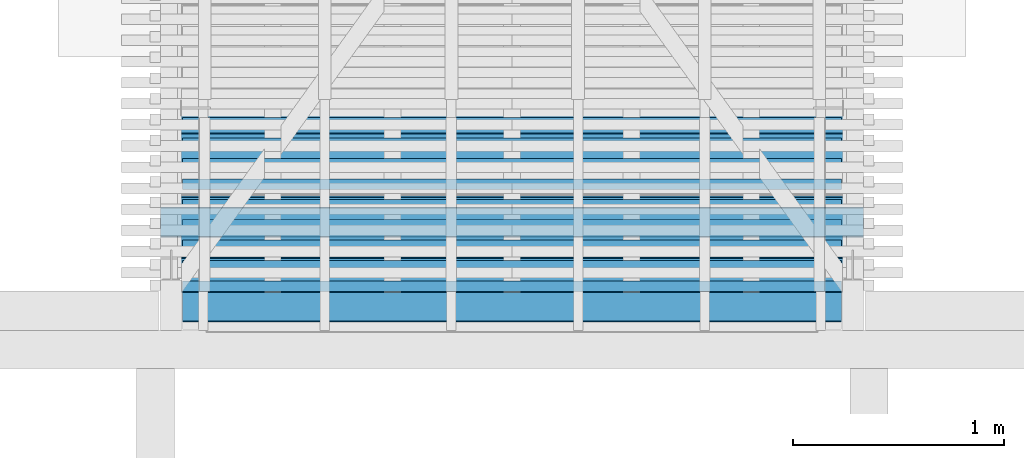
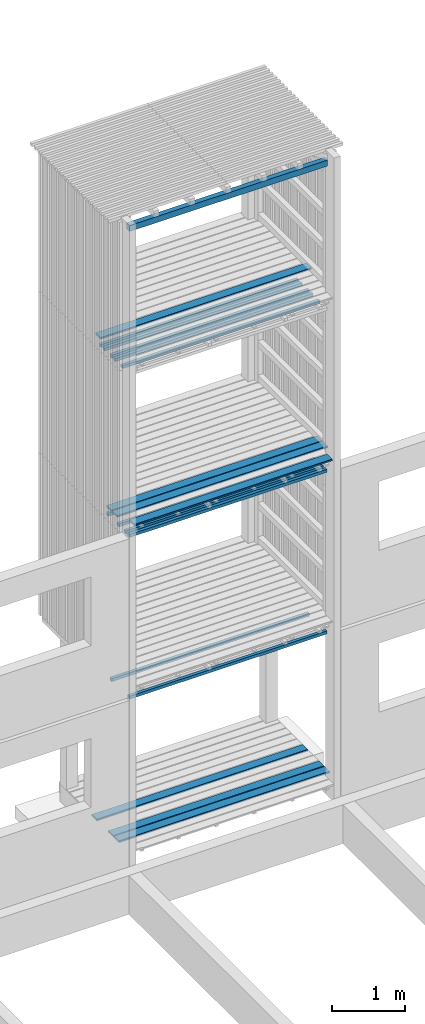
# One storey, part 17 of 182: 19 beams.
"""IFC2X3 building model written with IfcOpenShell, lengths in metres."""

from ifc_helpers import new_model, si_unit, frame, origin, place, context, project, spatial, faceted_brep, element, save


model = new_model("IFC2X3")

# Units and contexts
model_context = context("Model", 3, precision=1e-06, world=origin())
ifc_project = project(units=[si_unit("LENGTHUNIT", "METRE"), si_unit("PLANEANGLEUNIT", "RADIAN")], contexts=[model_context])

# Site, building, storey
site = spatial("IfcSite", under=ifc_project, CompositionType="ELEMENT")
building = spatial("IfcBuilding", under=site, CompositionType="ELEMENT")
storey = spatial("IfcBuildingStorey", under=building, Name="vs", CompositionType="ELEMENT", Elevation=-0.85)

# Beams
placement = place(None, origin())
beam_1_placement = place(placement, frame((6.644197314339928, 11.334577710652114, 8.13349999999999), z_axis=(0.0, 0.0, 1.0), x_axis=(-1.0, 0.0, 0.0)))
element("IfcBeam", 1, at=beam_1_placement, inside=storey, Name="Caillebotis", context=model_context, shape_type="Brep", body=[
    faceted_brep([(3.329999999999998, -0.072499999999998, -0.013500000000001), (3.329999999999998, 0.072500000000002, -0.013500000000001), (3.329999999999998, 0.072500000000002, 0.008499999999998), (3.329999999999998, 0.067500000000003, 0.013499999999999), (3.329999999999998, -0.067500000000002, 0.013499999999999), (3.329999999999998, -0.072499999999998, 0.0085), (0.0, -0.072499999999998, 0.0085), (0.0, -0.067500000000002, 0.013499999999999), (0.0, 0.067500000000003, 0.013499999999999), (0.0, 0.072499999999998, 0.008499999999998), (0.0, 0.072499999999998, -0.013500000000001), (0.0, -0.072499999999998, -0.013500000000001), (3.329999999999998, 0.072500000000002, 0.008499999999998), (3.329999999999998, 0.072500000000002, -0.013500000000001), (0.0, 0.072499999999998, -0.013500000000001), (0.0, 0.072499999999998, 0.008499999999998), (3.329999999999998, 0.067500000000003, 0.013499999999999), (3.329999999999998, 0.072500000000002, 0.008499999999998), (0.0, 0.072499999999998, 0.008499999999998), (0.0, 0.067500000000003, 0.013499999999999), (3.329999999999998, -0.067500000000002, 0.013499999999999), (3.329999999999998, 0.067500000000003, 0.013499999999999), (0.0, 0.067500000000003, 0.013499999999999), (0.0, -0.067500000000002, 0.013499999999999), (3.329999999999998, -0.072499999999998, 0.0085), (3.329999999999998, -0.067500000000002, 0.013499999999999), (0.0, -0.067500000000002, 0.013499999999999), (0.0, -0.072499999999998, 0.0085), (3.329999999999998, -0.072499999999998, -0.013500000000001), (3.329999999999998, -0.072499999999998, 0.0085), (0.0, -0.072499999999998, 0.0085), (0.0, -0.072499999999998, -0.013500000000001), (0.0, 0.072499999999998, -0.013500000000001), (3.329999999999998, 0.072500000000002, -0.013500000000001), (3.329999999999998, -0.072499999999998, -0.013500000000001), (0.0, -0.072499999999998, -0.013500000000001)], [[[0, 1, 2, 3, 4, 5]], [[6, 7, 8, 9, 10, 11]], [[12, 13, 14, 15]], [[16, 17, 18, 19]], [[20, 21, 22, 23]], [[24, 25, 26, 27]], [[28, 29, 30, 31]], [[32, 33, 34, 35]]]),
])
beam_2_placement = place(placement, frame((6.644197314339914, 10.834577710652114, 0.033500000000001), z_axis=(0.0, 0.0, 1.0), x_axis=(-1.0, 0.0, 0.0)))
element("IfcBeam", 2, at=beam_2_placement, inside=storey, Name="Caillebotis", context=model_context, shape_type="Brep", body=[
    faceted_brep([(3.329999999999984, -0.067500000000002, 0.0135), (3.329999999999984, -0.072499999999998, 0.008500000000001), (3.329999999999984, -0.072499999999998, -0.013500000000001), (3.329999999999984, 0.072499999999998, -0.013500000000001), (3.329999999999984, 0.072499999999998, 0.0085), (3.329999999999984, 0.067499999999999, 0.0135), (0.0, 0.067499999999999, 0.0135), (0.0, 0.072499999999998, 0.0085), (0.0, 0.072499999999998, -0.013500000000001), (0.0, -0.072500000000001, -0.013500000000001), (0.0, -0.072500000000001, 0.008500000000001), (0.0, -0.067500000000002, 0.0135), (3.329999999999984, -0.072499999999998, -0.013500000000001), (3.329999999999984, -0.072499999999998, 0.008500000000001), (0.0, -0.072500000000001, 0.008500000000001), (0.0, -0.072500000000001, -0.013500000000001), (3.329999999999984, 0.072499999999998, -0.013500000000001), (3.329999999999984, -0.072499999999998, -0.013500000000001), (0.0, -0.072500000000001, -0.013500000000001), (0.0, 0.072499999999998, -0.013500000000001), (3.329999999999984, 0.072499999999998, 0.0085), (3.329999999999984, 0.072499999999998, -0.013500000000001), (0.0, 0.072499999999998, -0.013500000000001), (0.0, 0.072499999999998, 0.0085), (3.329999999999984, 0.067499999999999, 0.0135), (3.329999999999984, 0.072499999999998, 0.0085), (0.0, 0.072499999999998, 0.0085), (0.0, 0.067499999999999, 0.0135), (3.329999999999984, -0.067500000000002, 0.0135), (3.329999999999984, 0.067499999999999, 0.0135), (0.0, 0.067499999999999, 0.0135), (0.0, -0.067500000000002, 0.0135), (0.0, -0.072500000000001, 0.008500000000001), (3.329999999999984, -0.072499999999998, 0.008500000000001), (3.329999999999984, -0.067500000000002, 0.0135), (0.0, -0.067500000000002, 0.0135)], [[[0, 1, 2, 3, 4, 5]], [[6, 7, 8, 9, 10, 11]], [[12, 13, 14, 15]], [[16, 17, 18, 19]], [[20, 21, 22, 23]], [[24, 25, 26, 27]], [[28, 29, 30, 31]], [[32, 33, 34, 35]]]),
])
beam_3_placement = place(placement, frame((6.644197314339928, 11.034577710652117, 5.433499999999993), z_axis=(0.0, 0.0, 1.0), x_axis=(-1.0, -1e-15, 0.0)))
element("IfcBeam", 3, at=beam_3_placement, inside=storey, Name="Caillebotis", context=model_context, shape_type="Brep", body=[
    faceted_brep([(3.329999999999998, -0.072500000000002, -0.0135), (3.329999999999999, 0.072500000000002, -0.0135), (3.329999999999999, 0.072500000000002, 0.0085), (3.329999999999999, 0.067499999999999, 0.0135), (3.329999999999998, -0.067499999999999, 0.0135), (3.329999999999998, -0.072500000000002, 0.008500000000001), (0.0, -0.072499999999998, 0.008500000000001), (0.0, -0.067499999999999, 0.0135), (0.0, 0.067500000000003, 0.0135), (0.0, 0.072500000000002, 0.0085), (0.0, 0.072500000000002, -0.0135), (0.0, -0.072499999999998, -0.0135), (3.329999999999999, 0.072500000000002, 0.0085), (3.329999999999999, 0.072500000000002, -0.0135), (0.0, 0.072500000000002, -0.0135), (0.0, 0.072500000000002, 0.0085), (3.329999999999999, 0.067499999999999, 0.0135), (3.329999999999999, 0.072500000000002, 0.0085), (0.0, 0.072500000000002, 0.0085), (0.0, 0.067500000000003, 0.0135), (3.329999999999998, -0.067499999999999, 0.0135), (3.329999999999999, 0.067499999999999, 0.0135), (0.0, 0.067500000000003, 0.0135), (0.0, -0.067499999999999, 0.0135), (3.329999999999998, -0.072500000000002, 0.008500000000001), (3.329999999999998, -0.067499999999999, 0.0135), (0.0, -0.067499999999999, 0.0135), (0.0, -0.072499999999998, 0.008500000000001), (3.329999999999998, -0.072500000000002, -0.0135), (3.329999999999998, -0.072500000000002, 0.008500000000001), (0.0, -0.072499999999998, 0.008500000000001), (0.0, -0.072499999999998, -0.0135), (0.0, 0.072500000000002, -0.0135), (3.329999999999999, 0.072500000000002, -0.0135), (3.329999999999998, -0.072500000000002, -0.0135), (0.0, -0.072499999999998, -0.0135)], [[[0, 1, 2, 3, 4, 5]], [[6, 7, 8, 9, 10, 11]], [[12, 13, 14, 15]], [[16, 17, 18, 19]], [[20, 21, 22, 23]], [[24, 25, 26, 27]], [[28, 29, 30, 31]], [[32, 33, 34, 35]]]),
])
beam_4_placement = place(placement, frame((6.539197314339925, 11.455077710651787, 7.867999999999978), z_axis=(0.0, 0.0, 1.0), x_axis=(-1.0, -1e-15, 0.0)))
element("IfcBeam", 4, at=beam_4_placement, inside=storey, Name="Bardage", context=model_context, shape_type="Brep", body=[
    faceted_brep([(3.120000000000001, 0.025000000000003, -0.025000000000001), (3.120000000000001, -0.025000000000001, -0.025000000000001), (-3e-15, -0.024999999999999, -0.025000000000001), (-3e-15, 0.025000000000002, -0.025000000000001), (-3e-15, -0.024999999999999, -0.025000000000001), (3.120000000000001, -0.025000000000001, -0.025000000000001), (3.120000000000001, -0.025000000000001, 0.024999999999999), (-3e-15, -0.024999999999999, 0.024999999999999), (3.120000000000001, -0.025000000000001, -0.025000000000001), (3.120000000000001, 0.025000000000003, -0.025000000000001), (3.120000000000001, 0.025000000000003, 0.024999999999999), (3.120000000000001, -0.025000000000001, 0.024999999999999), (3.120000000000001, 0.025000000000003, 0.024999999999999), (3.120000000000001, 0.025000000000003, -0.025000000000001), (-3e-15, 0.025000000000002, -0.025000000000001), (-3e-15, 0.025000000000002, 0.024999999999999), (-3e-15, -0.024999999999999, 0.024999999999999), (3.120000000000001, -0.025000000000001, 0.024999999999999), (3.120000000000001, 0.025000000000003, 0.024999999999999), (-3e-15, 0.025000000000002, 0.024999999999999), (-3e-15, -0.024999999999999, -0.025000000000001), (-3e-15, -0.024999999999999, 0.024999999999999), (-3e-15, 0.025000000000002, 0.024999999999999), (-3e-15, 0.025000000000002, -0.025000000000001)], [[[0, 1, 2, 3]], [[4, 5, 6, 7]], [[8, 9, 10, 11]], [[12, 13, 14, 15]], [[16, 17, 18, 19]], [[20, 21, 22, 23]]]),
])
beam_5_placement = place(placement, frame((6.539197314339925, 10.776952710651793, 5.167999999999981), z_axis=(0.0, 0.0, 1.0), x_axis=(-1.0, 0.0, 0.0)))
element("IfcBeam", 5, at=beam_5_placement, inside=storey, Name="Bardage", context=model_context, shape_type="Brep", body=[
    faceted_brep([(3.120000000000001, 0.025000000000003, -0.025), (3.120000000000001, -0.024999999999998, -0.025), (-3e-15, -0.024999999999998, -0.025), (-3e-15, 0.025000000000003, -0.025), (-3e-15, -0.024999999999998, -0.025), (3.120000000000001, -0.024999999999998, -0.025), (3.120000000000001, -0.024999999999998, 0.025000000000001), (-3e-15, -0.024999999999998, 0.025000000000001), (3.120000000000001, -0.024999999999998, -0.025), (3.120000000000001, 0.025000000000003, -0.025), (3.120000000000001, 0.025000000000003, 0.025000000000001), (3.120000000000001, -0.024999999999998, 0.025000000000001), (3.120000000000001, 0.025000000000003, 0.025000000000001), (3.120000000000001, 0.025000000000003, -0.025), (-3e-15, 0.025000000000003, -0.025), (-3e-15, 0.025000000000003, 0.025000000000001), (-3e-15, -0.024999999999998, 0.025000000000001), (3.120000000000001, -0.024999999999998, 0.025000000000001), (3.120000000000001, 0.025000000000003, 0.025000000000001), (-3e-15, 0.025000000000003, 0.025000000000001), (-3e-15, -0.024999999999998, -0.025), (-3e-15, -0.024999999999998, 0.025000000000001), (-3e-15, 0.025000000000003, 0.025000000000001), (-3e-15, 0.025000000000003, -0.025)], [[[0, 1, 2, 3]], [[4, 5, 6, 7]], [[8, 9, 10, 11]], [[12, 13, 14, 15]], [[16, 17, 18, 19]], [[20, 21, 22, 23]]]),
])
beam_6_placement = place(placement, frame((6.539197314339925, 10.680077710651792, 5.167999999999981), z_axis=(0.0, 0.0, 1.0), x_axis=(-1.0, 0.0, 0.0)))
element("IfcBeam", 6, at=beam_6_placement, inside=storey, Name="Bardage", context=model_context, shape_type="Brep", body=[
    faceted_brep([(3.120000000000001, -0.025000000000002, 0.025000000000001), (3.120000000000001, -0.025000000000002, -0.025), (3.120000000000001, 0.024999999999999, -0.025), (3.120000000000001, 0.024999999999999, 0.025000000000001), (-3e-15, 0.024999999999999, 0.025000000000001), (-3e-15, 0.024999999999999, -0.025), (-3e-15, -0.024999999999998, -0.025), (-3e-15, -0.024999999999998, 0.025000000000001), (3.120000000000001, -0.025000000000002, -0.025), (3.120000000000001, -0.025000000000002, 0.025000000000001), (-3e-15, -0.024999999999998, 0.025000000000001), (-3e-15, -0.024999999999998, -0.025), (3.120000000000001, 0.024999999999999, -0.025), (3.120000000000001, -0.025000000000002, -0.025), (-3e-15, -0.024999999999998, -0.025), (-3e-15, 0.024999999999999, -0.025), (3.120000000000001, 0.024999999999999, 0.025000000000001), (3.120000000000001, 0.024999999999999, -0.025), (-3e-15, 0.024999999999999, -0.025), (-3e-15, 0.024999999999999, 0.025000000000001), (3.120000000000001, -0.025000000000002, 0.025000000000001), (3.120000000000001, 0.024999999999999, 0.025000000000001), (-3e-15, 0.024999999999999, 0.025000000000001), (-3e-15, -0.024999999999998, 0.025000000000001)], [[[0, 1, 2, 3]], [[4, 5, 6, 7]], [[8, 9, 10, 11]], [[12, 13, 14, 15]], [[16, 17, 18, 19]], [[20, 21, 22, 23]]]),
])
beam_7_placement = place(placement, frame((6.539197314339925, 10.584577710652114, 5.433499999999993), z_axis=(0.0, 0.0, 1.0), x_axis=(-1.0, 0.0, 0.0)))
element("IfcBeam", 7, at=beam_7_placement, inside=storey, Name="Caillebotis", context=model_context, shape_type="Brep", body=[
    faceted_brep([(-3e-15, -0.072500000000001, 0.008500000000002), (-3e-15, -0.067500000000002, 0.0135), (-3e-15, 0.067499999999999, 0.0135), (-3e-15, 0.072499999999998, 0.008500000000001), (-3e-15, 0.072499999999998, -0.0135), (-3e-15, -0.072500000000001, -0.0135), (-3e-15, 0.072499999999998, -0.0135), (-3e-15, 0.072499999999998, 0.008500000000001), (3.120000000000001, 0.072499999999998, 0.0085), (3.120000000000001, 0.072499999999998, -0.0135), (-3e-15, -0.072500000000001, -0.0135), (-3e-15, 0.072499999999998, -0.0135), (3.120000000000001, 0.072499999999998, -0.0135), (3.120000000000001, -0.072500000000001, -0.0135), (-3e-15, -0.072500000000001, 0.008500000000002), (-3e-15, -0.072500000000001, -0.0135), (3.120000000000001, -0.072500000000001, -0.0135), (3.120000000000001, -0.072500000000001, 0.008500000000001), (-3e-15, -0.067500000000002, 0.0135), (-3e-15, -0.072500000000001, 0.008500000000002), (3.120000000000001, -0.072500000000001, 0.008500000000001), (3.120000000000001, -0.067500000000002, 0.0135), (-3e-15, 0.067499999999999, 0.0135), (-3e-15, -0.067500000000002, 0.0135), (3.120000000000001, -0.067500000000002, 0.0135), (3.120000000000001, 0.067499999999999, 0.0135), (-3e-15, 0.072499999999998, 0.008500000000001), (-3e-15, 0.067499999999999, 0.0135), (3.120000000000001, 0.067499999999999, 0.0135), (3.120000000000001, 0.072499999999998, 0.0085), (3.120000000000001, -0.072500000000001, -0.0135), (3.120000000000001, 0.072499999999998, -0.0135), (3.120000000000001, 0.072499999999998, 0.0085), (3.120000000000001, 0.067499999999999, 0.0135), (3.120000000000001, -0.067500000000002, 0.0135), (3.120000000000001, -0.072500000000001, 0.008500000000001)], [[[0, 1, 2, 3, 4, 5]], [[6, 7, 8, 9]], [[10, 11, 12, 13]], [[14, 15, 16, 17]], [[18, 19, 20, 21]], [[22, 23, 24, 25]], [[26, 27, 28, 29]], [[30, 31, 32, 33, 34, 35]]]),
])
beam_8_placement = place(placement, frame((6.539197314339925, 11.261327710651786, 5.167999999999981), z_axis=(0.0, 0.0, 1.0), x_axis=(-1.0, 0.0, 0.0)))
element("IfcBeam", 8, at=beam_8_placement, inside=storey, Name="Bardage", context=model_context, shape_type="Brep", body=[
    faceted_brep([(3.120000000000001, 0.024999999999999, -0.025), (3.120000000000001, -0.024999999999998, -0.025), (-3e-15, -0.025000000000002, -0.025), (-3e-15, 0.024999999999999, -0.025), (-3e-15, -0.025000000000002, -0.025), (3.120000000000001, -0.024999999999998, -0.025), (3.120000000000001, -0.024999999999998, 0.025000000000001), (-3e-15, -0.025000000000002, 0.025000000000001), (3.120000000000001, -0.024999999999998, -0.025), (3.120000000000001, 0.024999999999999, -0.025), (3.120000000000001, 0.024999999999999, 0.025000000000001), (3.120000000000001, -0.024999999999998, 0.025000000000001), (3.120000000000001, 0.024999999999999, 0.025000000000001), (3.120000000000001, 0.024999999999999, -0.025), (-3e-15, 0.024999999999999, -0.025), (-3e-15, 0.024999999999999, 0.025000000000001), (-3e-15, -0.025000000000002, 0.025000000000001), (3.120000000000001, -0.024999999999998, 0.025000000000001), (3.120000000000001, 0.024999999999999, 0.025000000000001), (-3e-15, 0.024999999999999, 0.025000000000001), (-3e-15, -0.025000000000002, -0.025), (-3e-15, -0.025000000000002, 0.025000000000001), (-3e-15, 0.024999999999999, 0.025000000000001), (-3e-15, 0.024999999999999, -0.025)], [[[0, 1, 2, 3]], [[4, 5, 6, 7]], [[8, 9, 10, 11]], [[12, 13, 14, 15]], [[16, 17, 18, 19]], [[20, 21, 22, 23]]]),
])
beam_9_placement = place(placement, frame((6.539197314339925, 10.873827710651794, 7.867999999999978), z_axis=(0.0, 0.0, 1.0), x_axis=(-1.0, 0.0, 0.0)))
element("IfcBeam", 9, at=beam_9_placement, inside=storey, Name="Bardage", context=model_context, shape_type="Brep", body=[
    faceted_brep([(3.120000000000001, 0.025000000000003, -0.025000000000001), (3.120000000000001, -0.024999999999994, -0.025000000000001), (-3e-15, -0.024999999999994, -0.025000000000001), (-3e-15, 0.025000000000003, -0.025000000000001), (-3e-15, -0.024999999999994, -0.025000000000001), (3.120000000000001, -0.024999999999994, -0.025000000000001), (3.120000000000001, -0.024999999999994, 0.024999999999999), (-3e-15, -0.024999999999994, 0.024999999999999), (3.120000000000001, -0.024999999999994, -0.025000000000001), (3.120000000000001, 0.025000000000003, -0.025000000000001), (3.120000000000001, 0.025000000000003, 0.024999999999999), (3.120000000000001, -0.024999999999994, 0.024999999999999), (3.120000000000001, 0.025000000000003, 0.024999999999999), (3.120000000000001, 0.025000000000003, -0.025000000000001), (-3e-15, 0.025000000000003, -0.025000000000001), (-3e-15, 0.025000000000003, 0.024999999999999), (-3e-15, -0.024999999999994, 0.024999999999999), (3.120000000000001, -0.024999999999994, 0.024999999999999), (3.120000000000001, 0.025000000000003, 0.024999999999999), (-3e-15, 0.025000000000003, 0.024999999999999), (-3e-15, -0.024999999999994, -0.025000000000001), (-3e-15, -0.024999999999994, 0.024999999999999), (-3e-15, 0.025000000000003, 0.024999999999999), (-3e-15, 0.025000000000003, -0.025000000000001)], [[[0, 1, 2, 3]], [[4, 5, 6, 7]], [[8, 9, 10, 11]], [[12, 13, 14, 15]], [[16, 17, 18, 19]], [[20, 21, 22, 23]]]),
])
beam_10_placement = place(placement, frame((6.544197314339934, 10.69007771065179, 10.30499999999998), z_axis=(0.0, 0.0, 1.0), x_axis=(-1.0, 0.0, 0.0)))
element("IfcBeam", 10, at=beam_10_placement, inside=storey, Name="Support bardage", context=model_context, shape_type="Brep", body=[
    faceted_brep([(2e-15, 0.04, -0.050000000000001), (2e-15, -0.039999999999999, -0.050000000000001), (2e-15, -0.039999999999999, 0.050000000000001), (2e-15, 0.04, 0.050000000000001), (3.130000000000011, -0.039999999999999, 0.050000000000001), (3.130000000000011, -0.039999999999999, -0.050000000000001), (3.130000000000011, 0.04, -0.050000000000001), (3.130000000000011, 0.04, 0.050000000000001), (2e-15, -0.039999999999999, 0.050000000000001), (2e-15, -0.039999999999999, -0.050000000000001), (3.130000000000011, -0.039999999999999, -0.050000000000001), (3.130000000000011, -0.039999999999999, 0.050000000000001), (3.130000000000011, -0.039999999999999, -0.050000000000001), (2e-15, -0.039999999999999, -0.050000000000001), (2e-15, 0.04, -0.050000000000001), (3.130000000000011, 0.04, -0.050000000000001), (3.130000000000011, 0.04, -0.050000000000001), (2e-15, 0.04, -0.050000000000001), (2e-15, 0.04, 0.050000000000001), (3.130000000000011, 0.04, 0.050000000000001), (3.130000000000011, 0.04, 0.050000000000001), (2e-15, 0.04, 0.050000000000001), (2e-15, -0.039999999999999, 0.050000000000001), (3.130000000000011, -0.039999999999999, 0.050000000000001)], [[[0, 1, 2, 3]], [[4, 5, 6, 7]], [[8, 9, 10, 11]], [[12, 13, 14, 15]], [[16, 17, 18, 19]], [[20, 21, 22, 23]]]),
])
beam_11_placement = place(placement, frame((6.539197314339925, 11.164452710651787, 7.867999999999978), z_axis=(0.0, 0.0, 1.0), x_axis=(-1.0, 0.0, 0.0)))
element("IfcBeam", 11, at=beam_11_placement, inside=storey, Name="Bardage", context=model_context, shape_type="Brep", body=[
    faceted_brep([(3.120000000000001, 0.025000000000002, -0.025000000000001), (3.120000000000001, -0.024999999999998, -0.025000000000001), (-3e-15, -0.024999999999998, -0.025000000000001), (-3e-15, 0.024999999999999, -0.025000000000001), (-3e-15, -0.024999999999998, -0.025000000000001), (3.120000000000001, -0.024999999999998, -0.025000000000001), (3.120000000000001, -0.024999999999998, 0.024999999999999), (-3e-15, -0.024999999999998, 0.024999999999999), (3.120000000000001, -0.024999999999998, -0.025000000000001), (3.120000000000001, 0.025000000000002, -0.025000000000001), (3.120000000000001, 0.025000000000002, 0.024999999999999), (3.120000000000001, -0.024999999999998, 0.024999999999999), (3.120000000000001, 0.025000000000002, 0.024999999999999), (3.120000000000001, 0.025000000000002, -0.025000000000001), (-3e-15, 0.024999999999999, -0.025000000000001), (-3e-15, 0.024999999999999, 0.024999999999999), (-3e-15, -0.024999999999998, 0.024999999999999), (3.120000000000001, -0.024999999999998, 0.024999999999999), (3.120000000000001, 0.025000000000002, 0.024999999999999), (-3e-15, 0.024999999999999, 0.024999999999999), (-3e-15, -0.024999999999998, -0.025000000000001), (-3e-15, -0.024999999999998, 0.024999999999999), (-3e-15, 0.024999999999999, 0.024999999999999), (-3e-15, 0.024999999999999, -0.025000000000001)], [[[0, 1, 2, 3]], [[4, 5, 6, 7]], [[8, 9, 10, 11]], [[12, 13, 14, 15]], [[16, 17, 18, 19]], [[20, 21, 22, 23]]]),
])
beam_12_placement = place(placement, frame((6.644197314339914, 10.984577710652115, 0.033500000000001), z_axis=(0.0, 0.0, 1.0), x_axis=(-1.0, -1e-15, 0.0)))
element("IfcBeam", 12, at=beam_12_placement, inside=storey, Name="Caillebotis", context=model_context, shape_type="Brep", body=[
    faceted_brep([(3.329999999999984, -0.067500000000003, 0.0135), (3.329999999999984, -0.072500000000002, 0.008500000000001), (3.329999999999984, -0.072499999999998, -0.013500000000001), (3.329999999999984, 0.072499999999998, -0.013500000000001), (3.329999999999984, 0.072499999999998, 0.0085), (3.329999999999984, 0.067500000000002, 0.0135), (0.0, 0.067500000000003, 0.0135), (0.0, 0.072500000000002, 0.0085), (0.0, 0.072500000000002, -0.013500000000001), (0.0, -0.072499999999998, -0.013500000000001), (0.0, -0.072499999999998, 0.008500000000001), (0.0, -0.067499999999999, 0.0135), (3.329999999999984, -0.072499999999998, -0.013500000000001), (3.329999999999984, -0.072500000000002, 0.008500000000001), (0.0, -0.072499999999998, 0.008500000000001), (0.0, -0.072499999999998, -0.013500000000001), (3.329999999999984, 0.072499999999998, -0.013500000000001), (3.329999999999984, -0.072499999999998, -0.013500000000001), (0.0, -0.072499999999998, -0.013500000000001), (0.0, 0.072500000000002, -0.013500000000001), (3.329999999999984, 0.072499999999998, 0.0085), (3.329999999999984, 0.072499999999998, -0.013500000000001), (0.0, 0.072500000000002, -0.013500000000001), (0.0, 0.072500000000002, 0.0085), (3.329999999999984, 0.067500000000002, 0.0135), (3.329999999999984, 0.072499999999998, 0.0085), (0.0, 0.072500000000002, 0.0085), (0.0, 0.067500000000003, 0.0135), (3.329999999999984, -0.067500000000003, 0.0135), (3.329999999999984, 0.067500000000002, 0.0135), (0.0, 0.067500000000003, 0.0135), (0.0, -0.067499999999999, 0.0135), (0.0, -0.072499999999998, 0.008500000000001), (3.329999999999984, -0.072500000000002, 0.008500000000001), (3.329999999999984, -0.067500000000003, 0.0135), (0.0, -0.067499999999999, 0.0135)], [[[0, 1, 2, 3, 4, 5]], [[6, 7, 8, 9, 10, 11]], [[12, 13, 14, 15]], [[16, 17, 18, 19]], [[20, 21, 22, 23]], [[24, 25, 26, 27]], [[28, 29, 30, 31]], [[32, 33, 34, 35]]]),
])
beam_13_placement = place(placement, frame((6.539197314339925, 11.358202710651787, 7.867999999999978), z_axis=(0.0, 0.0, 1.0), x_axis=(-1.0, -1e-15, 0.0)))
element("IfcBeam", 13, at=beam_13_placement, inside=storey, Name="Bardage", context=model_context, shape_type="Brep", body=[
    faceted_brep([(3.120000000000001, 0.024999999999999, -0.025000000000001), (3.120000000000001, -0.025000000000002, -0.025000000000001), (-3e-15, -0.025000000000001, -0.025000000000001), (-3e-15, 0.025000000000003, -0.025000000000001), (-3e-15, -0.025000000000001, -0.025000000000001), (3.120000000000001, -0.025000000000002, -0.025000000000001), (3.120000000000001, -0.025000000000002, 0.024999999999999), (-3e-15, -0.025000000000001, 0.024999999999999), (3.120000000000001, -0.025000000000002, -0.025000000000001), (3.120000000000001, 0.024999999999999, -0.025000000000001), (3.120000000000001, 0.024999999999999, 0.024999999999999), (3.120000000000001, -0.025000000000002, 0.024999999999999), (3.120000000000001, 0.024999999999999, 0.024999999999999), (3.120000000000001, 0.024999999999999, -0.025000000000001), (-3e-15, 0.025000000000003, -0.025000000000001), (-3e-15, 0.025000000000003, 0.024999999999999), (-3e-15, -0.025000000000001, 0.024999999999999), (3.120000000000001, -0.025000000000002, 0.024999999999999), (3.120000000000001, 0.024999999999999, 0.024999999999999), (-3e-15, 0.025000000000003, 0.024999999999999), (-3e-15, -0.025000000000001, -0.025000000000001), (-3e-15, -0.025000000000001, 0.024999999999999), (-3e-15, 0.025000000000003, 0.024999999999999), (-3e-15, 0.025000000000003, -0.025000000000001)], [[[0, 1, 2, 3]], [[4, 5, 6, 7]], [[8, 9, 10, 11]], [[12, 13, 14, 15]], [[16, 17, 18, 19]], [[20, 21, 22, 23]]]),
])
beam_14_placement = place(placement, frame((6.539197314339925, 11.067577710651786, 7.867999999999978), z_axis=(0.0, 0.0, 1.0), x_axis=(-1.0, 0.0, 0.0)))
element("IfcBeam", 14, at=beam_14_placement, inside=storey, Name="Bardage", context=model_context, shape_type="Brep", body=[
    faceted_brep([(3.120000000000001, 0.025000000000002, -0.025000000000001), (3.120000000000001, -0.025000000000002, -0.025000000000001), (-3e-15, -0.025000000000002, -0.025000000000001), (-3e-15, 0.024999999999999, -0.025000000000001), (-3e-15, -0.025000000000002, -0.025000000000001), (3.120000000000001, -0.025000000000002, -0.025000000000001), (3.120000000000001, -0.025000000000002, 0.024999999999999), (-3e-15, -0.025000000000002, 0.024999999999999), (3.120000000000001, -0.025000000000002, -0.025000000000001), (3.120000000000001, 0.025000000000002, -0.025000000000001), (3.120000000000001, 0.025000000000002, 0.024999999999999), (3.120000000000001, -0.025000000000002, 0.024999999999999), (3.120000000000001, 0.025000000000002, 0.024999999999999), (3.120000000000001, 0.025000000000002, -0.025000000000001), (-3e-15, 0.024999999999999, -0.025000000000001), (-3e-15, 0.024999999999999, 0.024999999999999), (-3e-15, -0.025000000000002, 0.024999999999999), (3.120000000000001, -0.025000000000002, 0.024999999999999), (3.120000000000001, 0.025000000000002, 0.024999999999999), (-3e-15, 0.024999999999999, 0.024999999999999), (-3e-15, -0.025000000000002, -0.025000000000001), (-3e-15, -0.025000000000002, 0.024999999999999), (-3e-15, 0.024999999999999, 0.024999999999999), (-3e-15, 0.024999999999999, -0.025000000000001)], [[[0, 1, 2, 3]], [[4, 5, 6, 7]], [[8, 9, 10, 11]], [[12, 13, 14, 15]], [[16, 17, 18, 19]], [[20, 21, 22, 23]]]),
])
beam_15_placement = place(placement, frame((6.644197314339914, 11.43457771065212, 0.033500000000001), z_axis=(0.0, 0.0, 1.0), x_axis=(-1.0, 0.0, 0.0)))
element("IfcBeam", 15, at=beam_15_placement, inside=storey, Name="Caillebotis", context=model_context, shape_type="Brep", body=[
    faceted_brep([(3.329999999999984, -0.067499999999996, 0.0135), (3.329999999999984, -0.072499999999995, 0.008500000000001), (3.329999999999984, -0.072499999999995, -0.013500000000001), (3.329999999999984, 0.072500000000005, -0.013500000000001), (3.329999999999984, 0.072500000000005, 0.0085), (3.329999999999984, 0.067500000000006, 0.0135), (0.0, 0.067500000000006, 0.0135), (0.0, 0.072500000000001, 0.0085), (0.0, 0.072500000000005, -0.013500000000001), (0.0, -0.072499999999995, -0.013500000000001), (0.0, -0.072499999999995, 0.008500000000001), (0.0, -0.067499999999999, 0.0135), (3.329999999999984, -0.072499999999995, -0.013500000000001), (3.329999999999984, -0.072499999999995, 0.008500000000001), (0.0, -0.072499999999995, 0.008500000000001), (0.0, -0.072499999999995, -0.013500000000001), (3.329999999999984, 0.072500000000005, -0.013500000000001), (3.329999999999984, -0.072499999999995, -0.013500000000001), (0.0, -0.072499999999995, -0.013500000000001), (0.0, 0.072500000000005, -0.013500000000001), (3.329999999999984, 0.072500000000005, 0.0085), (3.329999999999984, 0.072500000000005, -0.013500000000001), (0.0, 0.072500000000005, -0.013500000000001), (0.0, 0.072500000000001, 0.0085), (3.329999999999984, 0.067500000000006, 0.0135), (3.329999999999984, 0.072500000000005, 0.0085), (0.0, 0.072500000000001, 0.0085), (0.0, 0.067500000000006, 0.0135), (3.329999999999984, -0.067499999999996, 0.0135), (3.329999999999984, 0.067500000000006, 0.0135), (0.0, 0.067500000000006, 0.0135), (0.0, -0.067499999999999, 0.0135), (0.0, -0.072499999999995, 0.008500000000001), (3.329999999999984, -0.072499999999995, 0.008500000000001), (3.329999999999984, -0.067499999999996, 0.0135), (0.0, -0.067499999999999, 0.0135)], [[[0, 1, 2, 3, 4, 5]], [[6, 7, 8, 9, 10, 11]], [[12, 13, 14, 15]], [[16, 17, 18, 19]], [[20, 21, 22, 23]], [[24, 25, 26, 27]], [[28, 29, 30, 31]], [[32, 33, 34, 35]]]),
])
beam_16_placement = place(placement, frame((6.539197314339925, 10.680077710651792, 2.467999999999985), z_axis=(0.0, 0.0, 1.0), x_axis=(-1.0, 0.0, 0.0)))
element("IfcBeam", 16, at=beam_16_placement, inside=storey, Name="Bardage", context=model_context, shape_type="Brep", body=[
    faceted_brep([(3.120000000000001, -0.025000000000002, 0.025), (3.120000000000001, -0.025000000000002, -0.025), (3.120000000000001, 0.024999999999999, -0.025), (3.120000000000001, 0.024999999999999, 0.025), (-3e-15, 0.024999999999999, 0.025), (-3e-15, 0.024999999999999, -0.025), (-3e-15, -0.025000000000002, -0.025), (-3e-15, -0.025000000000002, 0.025), (3.120000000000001, -0.025000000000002, -0.025), (3.120000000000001, -0.025000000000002, 0.025), (-3e-15, -0.025000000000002, 0.025), (-3e-15, -0.025000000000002, -0.025), (3.120000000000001, 0.024999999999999, -0.025), (3.120000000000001, -0.025000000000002, -0.025), (-3e-15, -0.025000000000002, -0.025), (-3e-15, 0.024999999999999, -0.025), (3.120000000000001, 0.024999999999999, 0.025), (3.120000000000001, 0.024999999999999, -0.025), (-3e-15, 0.024999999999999, -0.025), (-3e-15, 0.024999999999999, 0.025), (3.120000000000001, -0.025000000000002, 0.025), (3.120000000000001, 0.024999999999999, 0.025), (-3e-15, 0.024999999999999, 0.025), (-3e-15, -0.025000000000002, 0.025)], [[[0, 1, 2, 3]], [[4, 5, 6, 7]], [[8, 9, 10, 11]], [[12, 13, 14, 15]], [[16, 17, 18, 19]], [[20, 21, 22, 23]]]),
])
beam_17_placement = place(placement, frame((6.644197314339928, 10.884577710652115, 5.433499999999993), z_axis=(0.0, 0.0, 1.0), x_axis=(-1.0, -2e-15, 0.0)))
element("IfcBeam", 17, at=beam_17_placement, inside=storey, Name="Caillebotis", context=model_context, shape_type="Brep", body=[
    faceted_brep([(3.329999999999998, -0.072500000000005, -0.0135), (3.329999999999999, 0.072499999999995, -0.0135), (3.329999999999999, 0.072499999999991, 0.0085), (3.329999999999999, 0.067499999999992, 0.0135), (3.329999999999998, -0.067500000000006, 0.0135), (3.329999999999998, -0.072500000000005, 0.008500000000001), (0.0, -0.072500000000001, 0.008500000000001), (0.0, -0.067499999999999, 0.0135), (0.0, 0.067500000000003, 0.0135), (0.0, 0.072500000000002, 0.0085), (0.0, 0.072500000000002, -0.0135), (0.0, -0.072500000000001, -0.0135), (3.329999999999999, 0.072499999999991, 0.0085), (3.329999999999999, 0.072499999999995, -0.0135), (0.0, 0.072500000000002, -0.0135), (0.0, 0.072500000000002, 0.0085), (3.329999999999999, 0.067499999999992, 0.0135), (3.329999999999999, 0.072499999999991, 0.0085), (0.0, 0.072500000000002, 0.0085), (0.0, 0.067500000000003, 0.0135), (3.329999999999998, -0.067500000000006, 0.0135), (3.329999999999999, 0.067499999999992, 0.0135), (0.0, 0.067500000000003, 0.0135), (0.0, -0.067499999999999, 0.0135), (3.329999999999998, -0.072500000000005, 0.008500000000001), (3.329999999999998, -0.067500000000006, 0.0135), (0.0, -0.067499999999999, 0.0135), (0.0, -0.072500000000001, 0.008500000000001), (3.329999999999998, -0.072500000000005, -0.0135), (3.329999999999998, -0.072500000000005, 0.008500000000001), (0.0, -0.072500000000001, 0.008500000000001), (0.0, -0.072500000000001, -0.0135), (0.0, 0.072500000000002, -0.0135), (3.329999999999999, 0.072499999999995, -0.0135), (3.329999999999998, -0.072500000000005, -0.0135), (0.0, -0.072500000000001, -0.0135)], [[[0, 1, 2, 3, 4, 5]], [[6, 7, 8, 9, 10, 11]], [[12, 13, 14, 15]], [[16, 17, 18, 19]], [[20, 21, 22, 23]], [[24, 25, 26, 27]], [[28, 29, 30, 31]], [[32, 33, 34, 35]]]),
])
beam_18_placement = place(placement, frame((6.539197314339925, 10.970702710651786, 5.167999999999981), z_axis=(0.0, 0.0, 1.0), x_axis=(-1.0, 0.0, 0.0)))
element("IfcBeam", 18, at=beam_18_placement, inside=storey, Name="Bardage", context=model_context, shape_type="Brep", body=[
    faceted_brep([(3.120000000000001, 0.024999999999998, -0.025), (3.120000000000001, -0.025000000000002, -0.025), (-3e-15, -0.025000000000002, -0.025), (-3e-15, 0.024999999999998, -0.025), (-3e-15, -0.025000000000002, -0.025), (3.120000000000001, -0.025000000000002, -0.025), (3.120000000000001, -0.025000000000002, 0.025000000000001), (-3e-15, -0.025000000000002, 0.025000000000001), (3.120000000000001, -0.025000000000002, -0.025), (3.120000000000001, 0.024999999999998, -0.025), (3.120000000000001, 0.024999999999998, 0.025000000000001), (3.120000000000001, -0.025000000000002, 0.025000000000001), (3.120000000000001, 0.024999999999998, 0.025000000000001), (3.120000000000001, 0.024999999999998, -0.025), (-3e-15, 0.024999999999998, -0.025), (-3e-15, 0.024999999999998, 0.025000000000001), (-3e-15, -0.025000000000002, 0.025000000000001), (3.120000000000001, -0.025000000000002, 0.025000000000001), (3.120000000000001, 0.024999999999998, 0.025000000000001), (-3e-15, 0.024999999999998, 0.025000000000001), (-3e-15, -0.025000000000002, -0.025), (-3e-15, -0.025000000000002, 0.025000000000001), (-3e-15, 0.024999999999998, 0.025000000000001), (-3e-15, 0.024999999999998, -0.025)], [[[0, 1, 2, 3]], [[4, 5, 6, 7]], [[8, 9, 10, 11]], [[12, 13, 14, 15]], [[16, 17, 18, 19]], [[20, 21, 22, 23]]]),
])
beam_19_placement = place(placement, frame((6.539197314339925, 11.164452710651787, 2.467999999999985), z_axis=(0.0, 0.0, 1.0), x_axis=(-1.0, 0.0, 0.0)))
element("IfcBeam", 19, at=beam_19_placement, inside=storey, Name="Bardage", context=model_context, shape_type="Brep", body=[
    faceted_brep([(3.120000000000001, 0.025000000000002, -0.025), (3.120000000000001, -0.024999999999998, -0.025), (-3e-15, -0.024999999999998, -0.025), (-3e-15, 0.024999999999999, -0.025), (-3e-15, -0.024999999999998, -0.025), (3.120000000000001, -0.024999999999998, -0.025), (3.120000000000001, -0.024999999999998, 0.025), (-3e-15, -0.024999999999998, 0.025), (3.120000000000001, -0.024999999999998, -0.025), (3.120000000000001, 0.025000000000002, -0.025), (3.120000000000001, 0.025000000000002, 0.025), (3.120000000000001, -0.024999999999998, 0.025), (3.120000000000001, 0.025000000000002, 0.025), (3.120000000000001, 0.025000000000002, -0.025), (-3e-15, 0.024999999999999, -0.025), (-3e-15, 0.024999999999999, 0.025), (-3e-15, -0.024999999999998, 0.025), (3.120000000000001, -0.024999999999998, 0.025), (3.120000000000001, 0.025000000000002, 0.025), (-3e-15, 0.024999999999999, 0.025), (-3e-15, -0.024999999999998, -0.025), (-3e-15, -0.024999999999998, 0.025), (-3e-15, 0.024999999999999, 0.025), (-3e-15, 0.024999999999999, -0.025)], [[[0, 1, 2, 3]], [[4, 5, 6, 7]], [[8, 9, 10, 11]], [[12, 13, 14, 15]], [[16, 17, 18, 19]], [[20, 21, 22, 23]]]),
])

save(model, "model.ifc")
